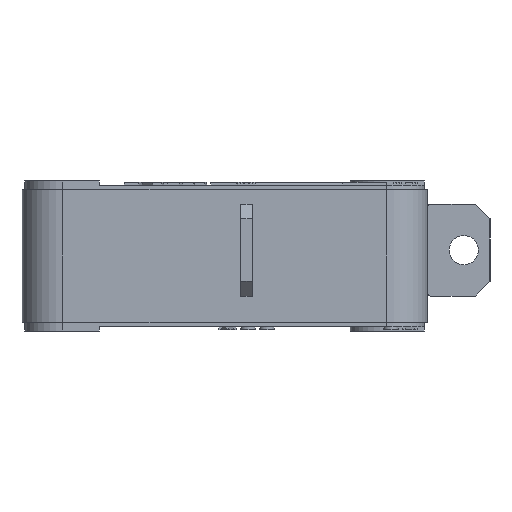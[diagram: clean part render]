
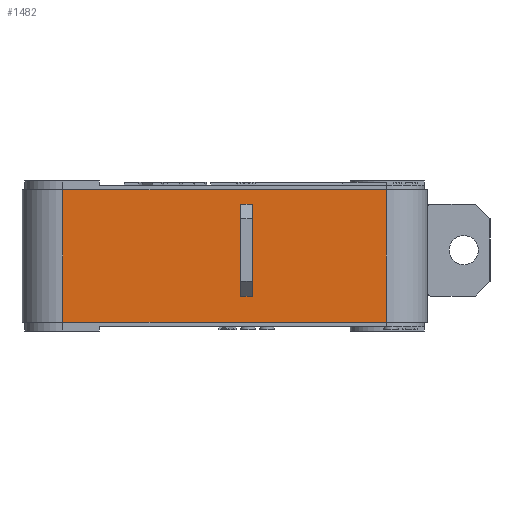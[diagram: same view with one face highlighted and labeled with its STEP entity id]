
A CAD part, front view. The second image highlights one B-rep face of the part: STEP entity #1482.
In plain terms, the highlighted planar face has unit normal (0, -1, 0).
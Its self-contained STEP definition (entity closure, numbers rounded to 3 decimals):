
#989=CARTESIAN_POINT('',(1.9,-7.95,3.353));
#990=VERTEX_POINT('',#989);
#991=CARTESIAN_POINT('',(1.9,-7.95,-1.747));
#992=VERTEX_POINT('',#991);
#993=CARTESIAN_POINT('',(1.9,-7.95,3.353));
#994=DIRECTION('',(0.0,0.0,-1.0));
#995=VECTOR('',#994,5.1);
#996=LINE('',#993,#995);
#997=EDGE_CURVE('',#990,#992,#996,.T.);
#1048=CARTESIAN_POINT('',(1.9,-7.95,-2.547));
#1049=VERTEX_POINT('',#1048);
#1057=CARTESIAN_POINT('',(1.9,-7.95,-2.15));
#1058=VERTEX_POINT('',#1057);
#1059=CARTESIAN_POINT('',(1.9,-7.95,-2.15));
#1060=DIRECTION('',(0.0,0.0,-1.0));
#1061=VECTOR('',#1060,0.397);
#1062=LINE('',#1059,#1061);
#1063=EDGE_CURVE('',#1058,#1049,#1062,.T.);
#1090=CARTESIAN_POINT('',(1.1,-7.95,-1.747));
#1091=VERTEX_POINT('',#1090);
#1092=CARTESIAN_POINT('',(1.1,-7.95,3.353));
#1093=VERTEX_POINT('',#1092);
#1094=CARTESIAN_POINT('',(1.1,-7.95,-1.747));
#1095=DIRECTION('',(0.0,0.0,1.0));
#1096=VECTOR('',#1095,5.1);
#1097=LINE('',#1094,#1096);
#1098=EDGE_CURVE('',#1091,#1093,#1097,.T.);
#1100=CARTESIAN_POINT('',(1.1,-7.95,-2.15));
#1101=VERTEX_POINT('',#1100);
#1108=CARTESIAN_POINT('',(1.1,-7.95,-2.547));
#1109=VERTEX_POINT('',#1108);
#1110=CARTESIAN_POINT('',(1.1,-7.95,-2.547));
#1111=DIRECTION('',(0.0,0.0,1.0));
#1112=VECTOR('',#1111,0.397);
#1113=LINE('',#1110,#1112);
#1114=EDGE_CURVE('',#1109,#1101,#1113,.T.);
#1299=CARTESIAN_POINT('',(1.1,-7.95,3.353));
#1300=DIRECTION('',(1.0,0.0,0.0));
#1301=VECTOR('',#1300,0.8);
#1302=LINE('',#1299,#1301);
#1303=EDGE_CURVE('',#1093,#990,#1302,.T.);
#1354=CARTESIAN_POINT('',(1.1,-7.95,-2.547));
#1355=DIRECTION('',(1.0,0.0,0.0));
#1356=VECTOR('',#1355,0.8);
#1357=LINE('',#1354,#1356);
#1358=EDGE_CURVE('',#1109,#1049,#1357,.T.);
#1412=CARTESIAN_POINT('',(1.1,-7.95,-2.15));
#1413=DIRECTION('',(0.0,0.0,1.0));
#1414=VECTOR('',#1413,0.403);
#1415=LINE('',#1412,#1414);
#1416=EDGE_CURVE('',#1101,#1091,#1415,.T.);
#1428=CARTESIAN_POINT('',(11.1,-7.95,-4.55));
#1429=DIRECTION('',(0.0,-1.0,0.0));
#1430=DIRECTION('',(0.0,0.0,-1.0));
#1431=AXIS2_PLACEMENT_3D('',#1428,#1429,#1430);
#1432=PLANE('',#1431);
#1433=CARTESIAN_POINT('',(11.1,-7.95,4.55));
#1434=VERTEX_POINT('',#1433);
#1435=CARTESIAN_POINT('',(-11.1,-7.95,4.55));
#1436=VERTEX_POINT('',#1435);
#1437=CARTESIAN_POINT('',(11.1,-7.95,4.55));
#1438=DIRECTION('',(-1.0,0.0,0.0));
#1439=VECTOR('',#1438,22.2);
#1440=LINE('',#1437,#1439);
#1441=EDGE_CURVE('',#1434,#1436,#1440,.T.);
#1442=ORIENTED_EDGE('',*,*,#1441,.T.);
#1443=CARTESIAN_POINT('',(-11.1,-7.95,-4.55));
#1444=VERTEX_POINT('',#1443);
#1445=CARTESIAN_POINT('',(-11.1,-7.95,-4.55));
#1446=DIRECTION('',(0.0,0.0,1.0));
#1447=VECTOR('',#1446,9.1);
#1448=LINE('',#1445,#1447);
#1449=EDGE_CURVE('',#1444,#1436,#1448,.T.);
#1450=ORIENTED_EDGE('',*,*,#1449,.F.);
#1451=CARTESIAN_POINT('',(11.1,-7.95,-4.55));
#1452=VERTEX_POINT('',#1451);
#1453=CARTESIAN_POINT('',(-11.1,-7.95,-4.55));
#1454=DIRECTION('',(1.0,0.0,0.0));
#1455=VECTOR('',#1454,22.2);
#1456=LINE('',#1453,#1455);
#1457=EDGE_CURVE('',#1444,#1452,#1456,.T.);
#1458=ORIENTED_EDGE('',*,*,#1457,.T.);
#1459=CARTESIAN_POINT('',(11.1,-7.95,-4.55));
#1460=DIRECTION('',(0.0,0.0,1.0));
#1461=VECTOR('',#1460,9.1);
#1462=LINE('',#1459,#1461);
#1463=EDGE_CURVE('',#1452,#1434,#1462,.T.);
#1464=ORIENTED_EDGE('',*,*,#1463,.T.);
#1465=EDGE_LOOP('',(#1442,#1450,#1458,#1464));
#1466=FACE_OUTER_BOUND('',#1465,.T.);
#1467=ORIENTED_EDGE('',*,*,#997,.T.);
#1468=CARTESIAN_POINT('',(1.9,-7.95,-1.747));
#1469=DIRECTION('',(0.0,0.0,-1.0));
#1470=VECTOR('',#1469,0.403);
#1471=LINE('',#1468,#1470);
#1472=EDGE_CURVE('',#992,#1058,#1471,.T.);
#1473=ORIENTED_EDGE('',*,*,#1472,.T.);
#1474=ORIENTED_EDGE('',*,*,#1063,.T.);
#1475=ORIENTED_EDGE('',*,*,#1358,.F.);
#1476=ORIENTED_EDGE('',*,*,#1114,.T.);
#1477=ORIENTED_EDGE('',*,*,#1416,.T.);
#1478=ORIENTED_EDGE('',*,*,#1098,.T.);
#1479=ORIENTED_EDGE('',*,*,#1303,.T.);
#1480=EDGE_LOOP('',(#1467,#1473,#1474,#1475,#1476,#1477,#1478,#1479));
#1481=FACE_BOUND('',#1480,.T.);
#1482=ADVANCED_FACE('',(#1466,#1481),#1432,.T.);
